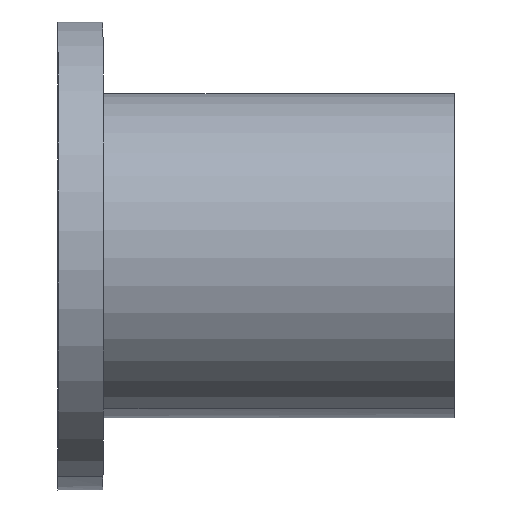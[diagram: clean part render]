
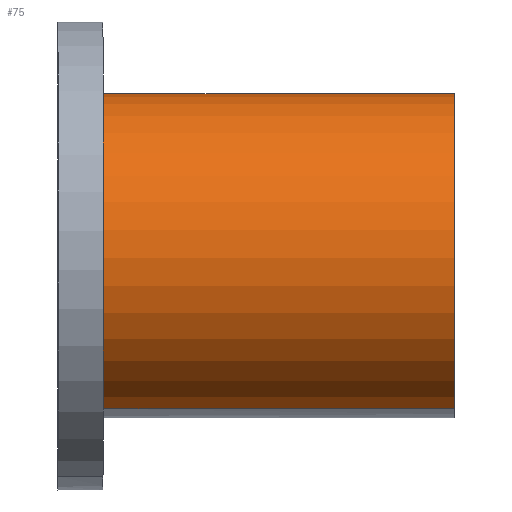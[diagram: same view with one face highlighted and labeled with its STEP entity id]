
A CAD part, left-side view. The second image highlights one B-rep face of the part: STEP entity #75.
In plain terms, the highlighted cylindrical face has radius 9 mm (diameter 18 mm), a partial arc.
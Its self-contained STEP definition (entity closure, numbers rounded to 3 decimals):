
#43=VECTOR('Line Direction',#42,1.) ;
#59=VECTOR('Line Direction',#58,1.) ;
#37=DIRECTION('Axis2P3D Direction',(-0.001,1.,0.)) ;
#38=DIRECTION('Axis2P3D XDirection',(-0.331,0.,-0.944)) ;
#42=DIRECTION('Vector Direction',(-0.001,1.,0.)) ;
#51=DIRECTION('Axis2P3D Direction',(-0.001,1.,0.)) ;
#58=DIRECTION('Vector Direction',(-0.001,1.,0.)) ;
#65=DIRECTION('Axis2P3D Direction',(-0.001,1.,0.)) ;
#36=CARTESIAN_POINT('Axis2P3D Location',(886.071,-624.729,321.175)) ;
#41=CARTESIAN_POINT('Line Origine',(883.089,-624.731,312.683)) ;
#45=CARTESIAN_POINT('Vertex',(883.097,-634.231,312.683)) ;
#47=CARTESIAN_POINT('Vertex',(883.082,-614.731,312.683)) ;
#50=CARTESIAN_POINT('Axis2P3D Location',(886.078,-634.229,321.175)) ;
#54=CARTESIAN_POINT('Vertex',(889.06,-634.226,329.667)) ;
#57=CARTESIAN_POINT('Line Origine',(889.053,-624.726,329.667)) ;
#61=CARTESIAN_POINT('Vertex',(889.045,-614.726,329.667)) ;
#64=CARTESIAN_POINT('Axis2P3D Location',(886.063,-614.729,321.175)) ;
#39=AXIS2_PLACEMENT_3D('Cylinder Axis2P3D',#36,#37,#38) ;
#52=AXIS2_PLACEMENT_3D('Circle Axis2P3D',#50,#51,$) ;
#66=AXIS2_PLACEMENT_3D('Circle Axis2P3D',#64,#65,$) ;
#49=EDGE_CURVE('',#46,#48,#44,.T.) ;
#56=EDGE_CURVE('',#46,#55,#53,.T.) ;
#63=EDGE_CURVE('',#55,#62,#60,.T.) ;
#68=EDGE_CURVE('',#48,#62,#67,.T.) ;
#70=ORIENTED_EDGE('',*,*,#49,.F.) ;
#71=ORIENTED_EDGE('',*,*,#56,.T.) ;
#72=ORIENTED_EDGE('',*,*,#63,.T.) ;
#73=ORIENTED_EDGE('',*,*,#68,.F.) ;
#44=LINE('Line',#41,#43) ;
#60=LINE('Line',#57,#59) ;
#75=ADVANCED_FACE('\X2\51E04F554F53\X0\.2',(#74),#40,.T.) ;
#53=CIRCLE('generated circle',#52,9.) ;
#67=CIRCLE('generated circle',#66,9.) ;
#40=CYLINDRICAL_SURFACE('generated cylinder',#39,9.) ;
#46=VERTEX_POINT('',#45) ;
#48=VERTEX_POINT('',#47) ;
#55=VERTEX_POINT('',#54) ;
#62=VERTEX_POINT('',#61) ;
#69=EDGE_LOOP('',(#70,#71,#72,#73)) ;
#74=FACE_OUTER_BOUND('',#69,.T.) ;
